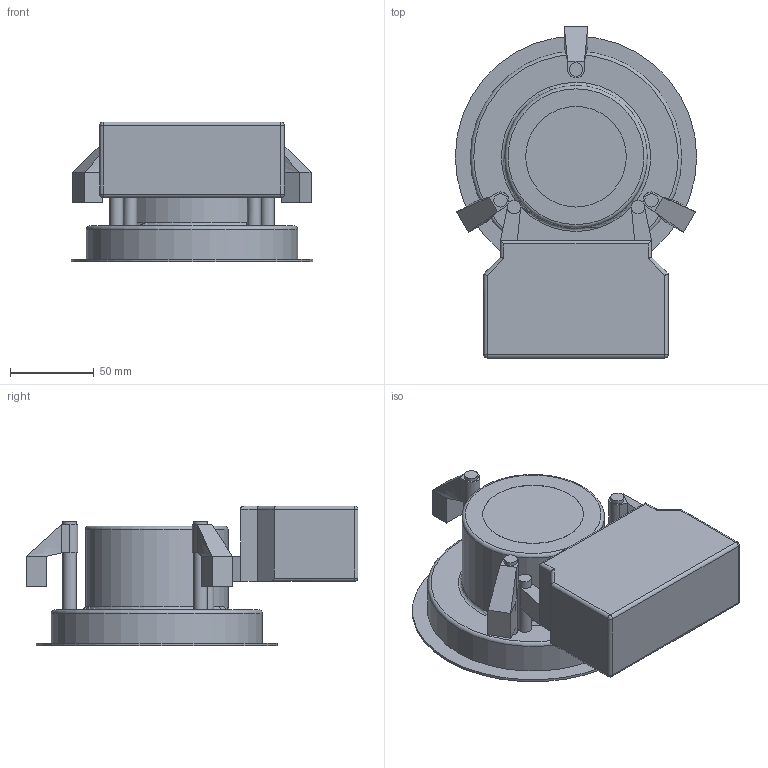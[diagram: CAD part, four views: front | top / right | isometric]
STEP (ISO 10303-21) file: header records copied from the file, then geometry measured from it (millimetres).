
FILE_DESCRIPTION(/* description */ (''),/* implementation_level */ '2;1');
FILE_NAME(/* name */ 'DE-140.stp',/* time_stamp */ '2024-09-24T15:30:52+02:00',/* author */ ('d.streicher'),/* organization */ (''),/* preprocessor_version */ 'ST-DEVELOPER v20',/* originating_system */ 'Autodesk Inventor 2025',/* authorisation */ '');
FILE_SCHEMA (('AUTOMOTIVE_DESIGN { 1 0 10303 214 3 1 1 }'));
Length unit declared in the file: millimetre
Products named in the file (1): DE-140
Bounding box: 144 x 198 x 83.5 mm (x, y, z)
Volume: 923322.1 mm3; surface area: 97509 mm2
Topology: 1 solids, 1 shells, 104 faces, 238 edges, 155 vertices
Faces by surface type: plane 61, cylinder 30, bspline 6, sphere 4, torus 3
Full cylindrical faces by diameter (mm): 8 x8, 60 x1, 85 x1, 123 x1, 124 x1, 126 x1, 144 x1
Entity records: 3159 total; most frequent: CARTESIAN_POINT 602, DIRECTION 502, ORIENTED_EDGE 460, EDGE_CURVE 230, AXIS2_PLACEMENT_3D 175, LINE 152, VECTOR 152, VERTEX_POINT 137
